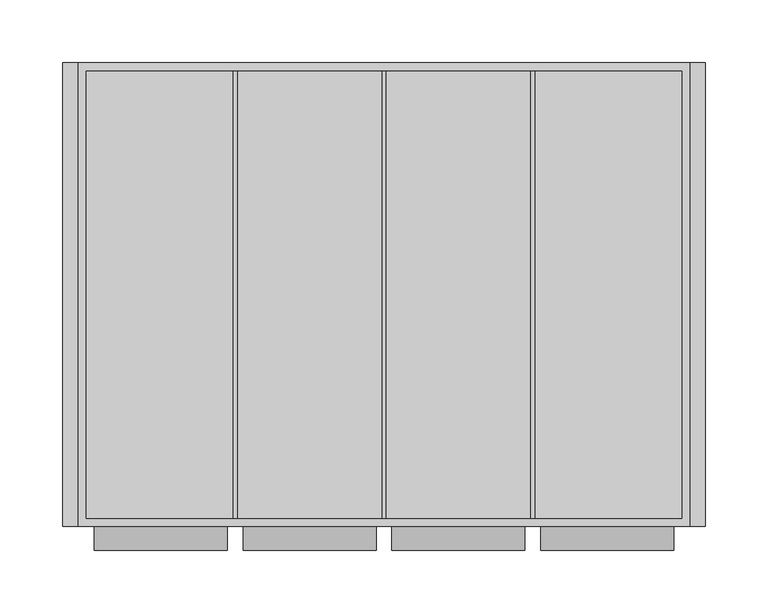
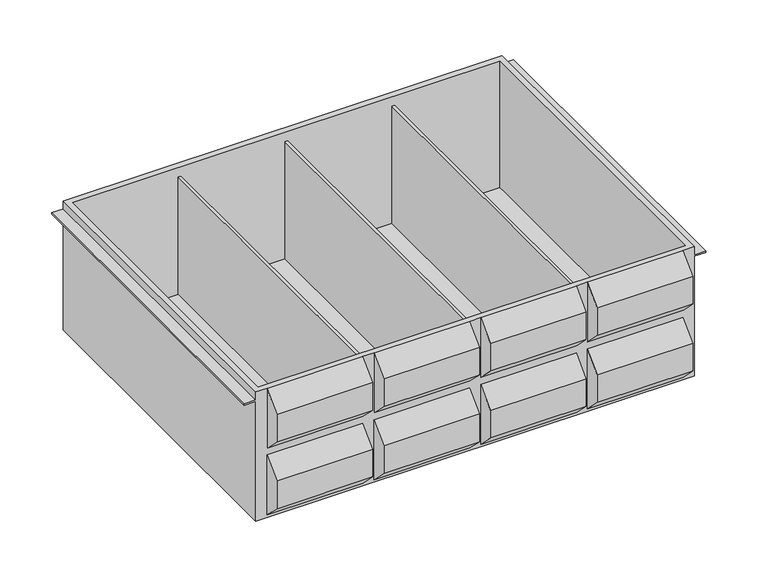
"""IFC4 building model written with IfcOpenShell, lengths in millimetres: furniture geometry, HermanMiller_CoStruc_CO565_Cassette Assembly : 6H x 15D x 20W."""

from ifc_helpers import new_model, si_unit, origin, place, context, project, spatial, faceted_brep, source, transform, mapped, element, save


def furniture_4407979e(model_context):
    return source(origin(), model_context, "Body", "Brep", [
        faceted_brep([(-238.125, -176.2125, 620.6109), (-250.825, -176.2125, 620.6109), (-250.825, -176.2125, 611.0986), (-263.525, -176.2125, 611.0986), (-263.525, -176.2125, 609.5111), (-250.825, -176.2125, 609.5111), (-250.825, -176.2125, 468.2109), (238.125, -176.2125, 468.2109), (238.125, -176.2125, 609.5111), (250.825, -176.2125, 609.5111), (250.825, -176.2125, 611.0986), (238.125, -176.2125, 611.0986), (238.125, -176.2125, 620.6109), (225.425, -176.2125, 620.6109), (225.425, -176.2125, 550.0226237), (119.0625, -176.2125, 550.0226237), (119.0625, -176.2125, 620.6109), (106.3625, -176.2125, 620.6109), (106.3625, -176.2125, 550.0226237), (0.0, -176.2125, 550.0226237), (0.0, -176.2125, 620.6109), (-12.7, -176.2125, 620.6109), (-12.7, -176.2125, 550.0226237), (-119.0625, -176.2125, 550.0226237), (-119.0625, -176.2125, 620.6109), (-131.7625, -176.2125, 620.6109), (-131.7625, -176.2125, 550.0226237), (-238.125, -176.2125, 550.0226237), (-131.7625, -176.2125, 541.8253481), (-131.7625, -176.2125, 471.2370719), (-238.125, -176.2125, 471.2370719), (-238.125, -176.2125, 541.8253481), (-119.0625, -176.2125, 471.2370719), (-119.0625, -176.2125, 541.8253481), (-12.7, -176.2125, 541.8253481), (-12.7, -176.2125, 471.2370719), (106.3625, -176.2125, 541.8253481), (106.3625, -176.2125, 471.2370719), (0.0, -176.2125, 471.2370719), (0.0, -176.2125, 541.8253481), (119.0625, -176.2125, 471.2370719), (119.0625, -176.2125, 541.8253481), (225.425, -176.2125, 541.8253481), (225.425, -176.2125, 471.2370719), (-250.825, 195.2625, 620.6109), (238.125, 195.2625, 620.6109), (238.125, 195.2625, 611.0986), (250.825, 195.2625, 611.0986), (250.825, 195.2625, 609.5111), (238.125, 195.2625, 609.5111), (238.125, 195.2625, 468.2109), (-250.825, 195.2625, 468.2109), (-250.825, 195.2625, 609.5111), (-263.525, 195.2625, 609.5111), (-263.525, 195.2625, 611.0986), (-250.825, 195.2625, 611.0986), (231.775, -169.8625, 620.6109), (-244.475, -169.8625, 620.6109), (-244.475, 188.2775, 620.6109), (231.775, 188.2775, 620.6109), (-131.7625, -195.2625, 490.2870719), (-131.7625, -195.2625, 522.7753481), (-131.7625, -195.2625, 601.5609), (-131.7625, -195.2625, 569.0726237), (-238.125, -195.2625, 490.2870719), (-238.125, -195.2625, 522.7753481), (-238.125, -195.2625, 569.0726237), (-238.125, -195.2625, 601.5609), (231.775, -169.8625, 471.2370719), (231.775, 188.2775, 471.2370719), (114.3, 188.2775, 471.2370719), (114.3, -169.8625, 471.2370719), (-244.475, 188.2775, 471.2370719), (-244.475, -169.8625, 471.2370719), (-127.0, -169.8625, 471.2370719), (-127.0, 188.2775, 471.2370719), (-4.7625, -169.8625, 471.2370719), (111.125, -169.8625, 471.2370719), (111.125, 188.2775, 471.2370719), (-4.7625, 188.2775, 471.2370719), (-123.825, -169.8625, 471.2370719), (-7.9375, -169.8625, 471.2370719), (-7.9375, 188.2775, 471.2370719), (-123.825, 188.2775, 471.2370719), (114.3, -169.8625, 609.5111), (111.125, -169.8625, 609.5111), (-4.7625, -169.8625, 609.5111), (-7.9375, -169.8625, 609.5111), (-123.825, -169.8625, 609.5111), (-127.0, -169.8625, 609.5111), (-127.0, 188.2775, 609.5111), (-123.825, 188.2775, 609.5111), (-7.9375, 188.2775, 609.5111), (-4.7625, 188.2775, 609.5111), (111.125, 188.2775, 609.5111), (114.3, 188.2775, 609.5111), (-119.0625, -195.2625, 490.2870719), (-119.0625, -195.2625, 522.7753481), (-119.0625, -195.2625, 569.0726237), (-119.0625, -195.2625, 601.5609), (-12.7, -195.2625, 490.2870719), (-12.7, -195.2625, 522.7753481), (-12.7, -195.2625, 601.5609), (-12.7, -195.2625, 569.0726237), (106.3625, -195.2625, 490.2870719), (106.3625, -195.2625, 522.7753481), (106.3625, -195.2625, 601.5609), (106.3625, -195.2625, 569.0726237), (0.0, -195.2625, 490.2870719), (0.0, -195.2625, 522.7753481), (0.0, -195.2625, 569.0726237), (0.0, -195.2625, 601.5609), (119.0625, -195.2625, 490.2870719), (119.0625, -195.2625, 522.7753481), (119.0625, -195.2625, 569.0726237), (119.0625, -195.2625, 601.5609), (225.425, -195.2625, 490.2870719), (225.425, -195.2625, 522.7753481), (225.425, -195.2625, 601.5609), (225.425, -195.2625, 569.0726237)], [[[0, 1, 2, 3, 4, 5, 6, 7, 8, 9, 10, 11, 12, 13, 14, 15, 16, 17, 18, 19, 20, 21, 22, 23, 24, 25, 26, 27], [28, 29, 30, 31], [32, 33, 34, 35], [36, 37, 38, 39], [40, 41, 42, 43]], [[44, 45, 46, 47, 48, 49, 50, 51, 52, 53, 54, 55]], [[51, 50, 7, 6]], [[7, 50, 49, 8]], [[45, 12, 11, 46]], [[45, 44, 1, 0, 25, 24, 21, 20, 17, 16, 13, 12], [56, 57, 58, 59]], [[51, 6, 5, 52]], [[1, 44, 55, 2]], [[60, 29, 28, 61]], [[25, 62, 63, 26]], [[64, 65, 31, 30]], [[27, 66, 67, 0]], [[29, 60, 64, 30]], [[62, 25, 0, 67]], [[63, 62, 67, 66]], [[26, 63, 66, 27]], [[61, 28, 31, 65]], [[60, 61, 65, 64]], [[68, 69, 70, 71]], [[72, 73, 74, 75]], [[76, 77, 78, 79]], [[80, 81, 82, 83]], [[56, 68, 71, 84, 85, 77, 76, 86, 87, 81, 80, 88, 89, 74, 73, 57]], [[69, 68, 56, 59]], [[69, 59, 58, 72, 75, 90, 91, 83, 82, 92, 93, 79, 78, 94, 95, 70]], [[73, 72, 58, 57]], [[96, 97, 33, 32]], [[23, 98, 99, 24]], [[100, 35, 34, 101]], [[21, 102, 103, 22]], [[97, 96, 100, 101]], [[33, 97, 101, 34]], [[98, 23, 22, 103]], [[99, 98, 103, 102]], [[24, 99, 102, 21]], [[96, 32, 35, 100]], [[104, 37, 36, 105]], [[17, 106, 107, 18]], [[108, 109, 39, 38]], [[19, 110, 111, 20]], [[37, 104, 108, 38]], [[106, 17, 20, 111]], [[107, 106, 111, 110]], [[18, 107, 110, 19]], [[105, 36, 39, 109]], [[104, 105, 109, 108]], [[112, 113, 41, 40]], [[15, 114, 115, 16]], [[116, 43, 42, 117]], [[13, 118, 119, 14]], [[113, 112, 116, 117]], [[41, 113, 117, 42]], [[114, 15, 14, 119]], [[115, 114, 119, 118]], [[16, 115, 118, 13]], [[112, 40, 43, 116]], [[54, 53, 4, 3]], [[55, 54, 3, 2]], [[53, 52, 5, 4]], [[49, 48, 9, 8]], [[47, 46, 11, 10]], [[48, 47, 10, 9]], [[88, 91, 90, 89]], [[84, 95, 94, 85]], [[86, 93, 92, 87]], [[91, 88, 80, 83]], [[89, 90, 75, 74]], [[95, 84, 71, 70]], [[85, 94, 78, 77]], [[93, 86, 76, 79]], [[87, 92, 82, 81]]]),
    ])


if __name__ == "__main__":
    model = new_model("IFC4")
    model_context = context("Model", 3, world=origin())
    ifc_project = project(units=[si_unit("LENGTHUNIT", "METRE", prefix="MILLI")], contexts=[model_context])
    site = spatial("IfcSite", under=ifc_project)
    building = spatial("IfcBuilding", under=site)
    placement = place(None, origin())
    furniture_shape = furniture_4407979e(model_context)
    element("IfcFurniture", 1, ObjectType="HermanMiller_CoStruc_CO565_Cassette Assembly : 6H x 15D x 20W", at=placement, inside=building, context=model_context, shape_type="MappedRepresentation", body=[
        mapped(furniture_shape, transform((0.0, 0.0, 0.0), x_axis=(1.0, 0.0, 0.0), y_axis=(0.0, 1.0, 0.0), z_axis=(0.0, 0.0, 1.0))),
    ])
    save(model, "model.ifc")
